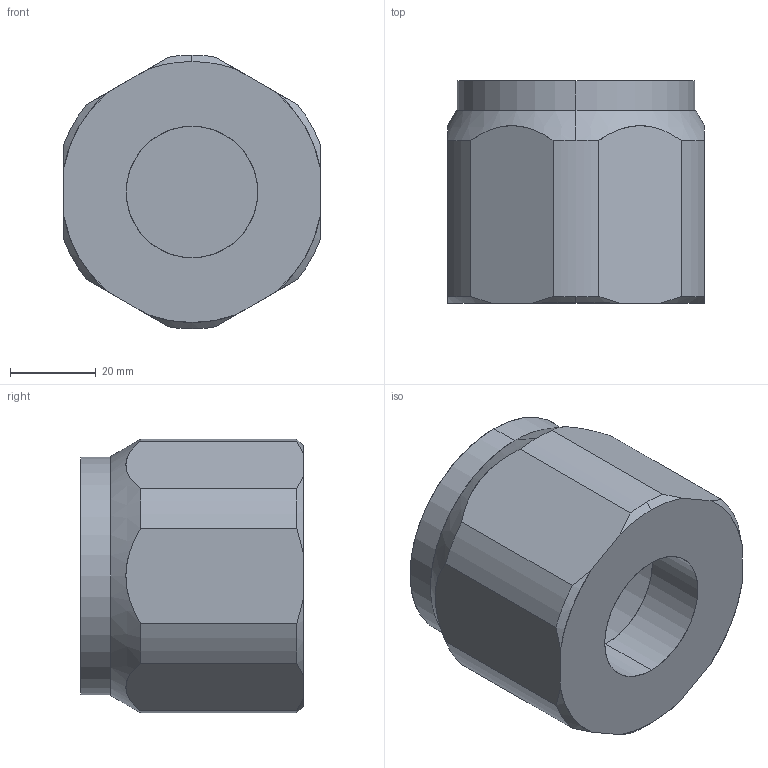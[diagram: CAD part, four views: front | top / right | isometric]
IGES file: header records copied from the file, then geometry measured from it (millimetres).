
Start section: SolidWorks IGES file using analytic representation for surfaces
Global section: file name: G:\Silvent\Ritningar\Övrigt\IGES\Silvent 720.IGS; native system: SolidWorks 2011; preprocessor: SolidWorks 2011; author: silvrati; date: 111209.092138; units: millimetre
Bounding box: 60 x 52 x 64 mm (x, y, z)
Surface area: 24086.3 mm2 (no closed solid volume)
Topology: 0 solids, 0 shells, 39 faces, 461 edges, 461 vertices
Faces by surface type: revolution 26, bspline 13
